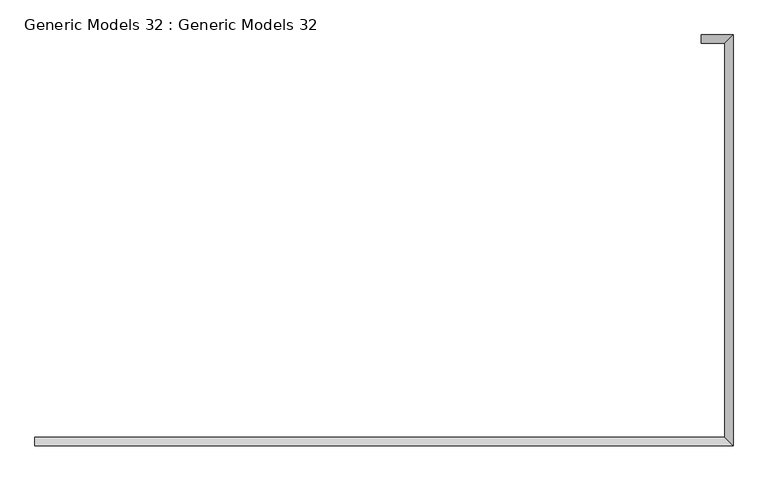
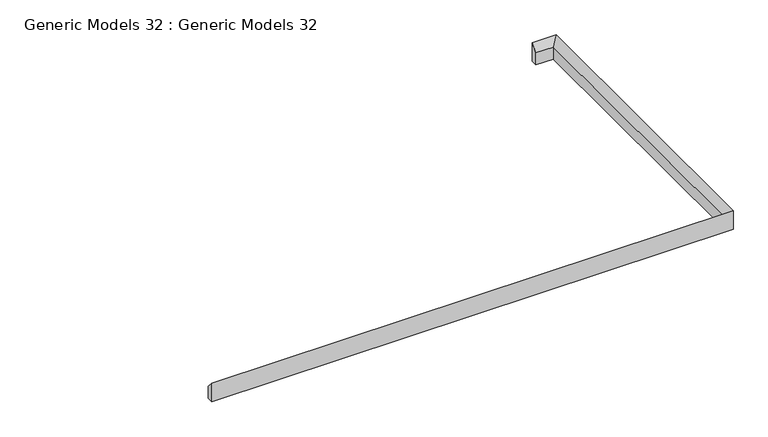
"""IFC4 building model written with IfcOpenShell, lengths in millimetres: proxy geometry, Generic Models 32 : Generic Models 32."""

from ifc_helpers import new_model, si_unit, origin, place, context, project, spatial, faceted_brep, source, transform, mapped, element, save


def generic_models_32_generic_models_32_7081ad10(model_context):
    return source(origin(), model_context, "Body", "Brep", [
        faceted_brep([(-81597.9372768, 22257.4703267, 44470.0), (-81597.9372768, 22257.4703267, 44170.0), (-81597.9372768, 15357.4703267, 44170.0), (-81597.9372768, 15357.4703267, 44470.0), (-81447.9372768, 22407.4703267, 44630.0), (-81447.9372768, 15207.4703267, 44630.0), (-81447.9372768, 22407.4703267, 44170.0), (-81447.9372768, 15207.4703267, 44170.0), (-93687.9372768, 15357.4703267, 44170.0), (-93687.9372768, 15357.4703267, 44470.0), (-93687.9372768, 15207.4703267, 44630.0), (-93687.9372768, 15207.4703267, 44170.0), (-82007.9372768, 22257.4703267, 44170.0), (-82007.9372768, 22257.4703267, 44470.0), (-82007.9372768, 22407.4703267, 44630.0), (-82007.9372768, 22407.4703267, 44170.0)], [[[0, 1, 2, 3]], [[4, 0, 3, 5]], [[6, 4, 5, 7]], [[3, 2, 8, 9]], [[5, 3, 9, 10]], [[7, 5, 10, 11]], [[12, 13, 14, 15]], [[8, 11, 10, 9]], [[13, 12, 1, 0]], [[14, 13, 0, 4]], [[15, 14, 4, 6]], [[12, 15, 6, 7, 11, 8, 2, 1]]]),
    ])


if __name__ == "__main__":
    model = new_model("IFC4")
    model_context = context("Model", 3, world=origin())
    ifc_project = project(units=[si_unit("LENGTHUNIT", "METRE", prefix="MILLI")], contexts=[model_context])
    site = spatial("IfcSite", under=ifc_project)
    building = spatial("IfcBuilding", under=site)
    placement = place(None, origin())
    generic_models_32_generic_models_32_shape = generic_models_32_generic_models_32_7081ad10(model_context)
    element("IfcBuildingElementProxy", 1, Name="Generic Models 32 : Generic Models 32", ObjectType="Generic Models 32 : Generic Models 32", at=placement, inside=building, context=model_context, shape_type="MappedRepresentation", body=[
        mapped(generic_models_32_generic_models_32_shape, transform((0.0, 0.0, 0.0), x_axis=(1.0, 0.0, 0.0), y_axis=(0.0, 1.0, 0.0), z_axis=(0.0, 0.0, 1.0))),
    ])
    save(model, "model.ifc")
